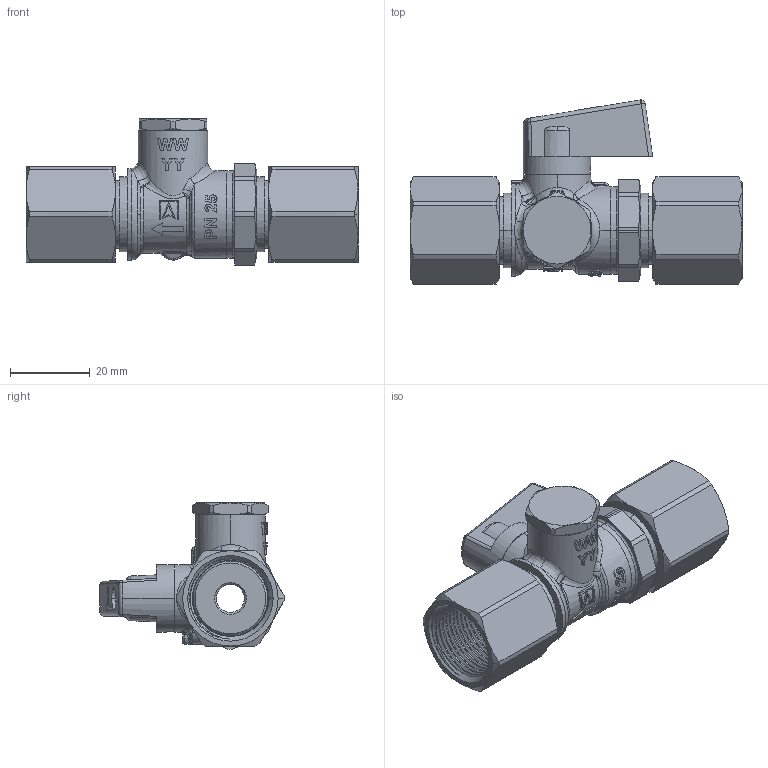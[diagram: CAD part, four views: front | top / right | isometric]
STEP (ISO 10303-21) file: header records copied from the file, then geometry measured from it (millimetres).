
FILE_DESCRIPTION (( 'STEP AP214' ), '1' );
FILE_NAME ('AMC_Kurek_2_drogowy_6343300_0_2D_AFRISO.STEP', '2024-03-11T11:55:01', ( '' ), ( '' ), 'SwSTEP 2.0', 'SolidWorks 2022', '' );
FILE_SCHEMA (( 'AUTOMOTIVE_DESIGN' ));
Length unit declared in the file: millimetre
Products named in the file (15): AMC-Corpo-DF-Lavorato; 52905637; Dado-12-Lavorato; Sfera-Ř8-C-Foro; Maniglia-1280-Abs_Tampogr-per-Afriso; Guarnizione-300-18-ptfe-52705001; Tappo-Lavorato-1310-32205004_Sabbiata; Asta-1280-12-Lavorata-30505280; Raccordo-12-DF-Lavorato; 52905873; 53105095; Asta-1280-Preassemblata-30525280; AMC_Kurek_2_drogowy_6343300_0_2D_AFRISO; Vite-1280-xxxxxxxx; 32225004-1310-Tappo-Premontato-14
Assembly tree (18 placements, depth 3):
  AMC_Kurek_2_drogowy_6343300_0_2D_AFRISO
    AMC-Corpo-DF-Lavorato
    Vite-1280-xxxxxxxx
    Sfera-Ř8-C-Foro
    Guarnizione-300-18-ptfe-52705001  x2
    Asta-1280-Preassemblata-30525280
      Asta-1280-12-Lavorata-30505280
      52905873  x2
    Maniglia-1280-Abs_Tampogr-per-Afriso
    32225004-1310-Tappo-Premontato-14
      Tappo-Lavorato-1310-32205004_Sabbiata
      52905637
    53105095  x2
    Dado-12-Lavorato  x2
    Raccordo-12-DF-Lavorato
Bounding box: 83.5 x 46.31 x 36.75 mm (x, y, z)
Volume: 29182.9 mm3; surface area: 24843.2 mm2
Topology: 16 solids, 16 shells, 1068 faces, 2584 edges, 1574 vertices
Faces by surface type: cone 340, cylinder 265, plane 247, bspline 207, sphere 6, torus 3
Entity records: 41913 total; most frequent: CARTESIAN_POINT 20291, ORIENTED_EDGE 4650, DIRECTION 4185, EDGE_CURVE 2325, AXIS2_PLACEMENT_3D 1685, VERTEX_POINT 1420, EDGE_LOOP 1033, FACE_OUTER_BOUND 970
